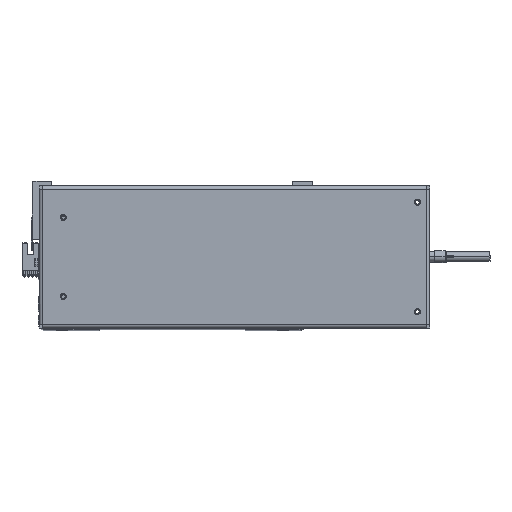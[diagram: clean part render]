
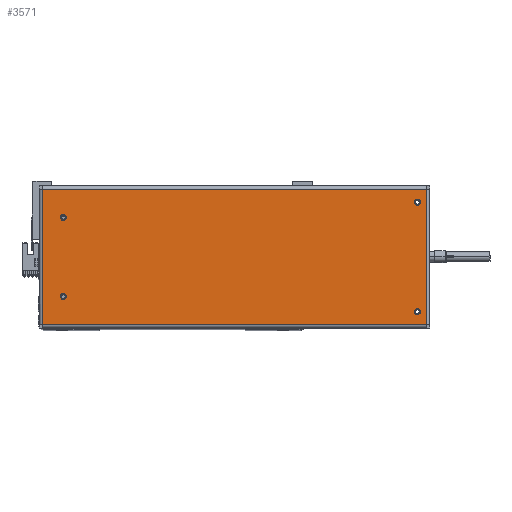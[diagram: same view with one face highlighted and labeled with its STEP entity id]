
A CAD part, top view. The second image highlights one B-rep face of the part: STEP entity #3571.
In plain terms, the highlighted planar face has unit normal (0, 0, 1).
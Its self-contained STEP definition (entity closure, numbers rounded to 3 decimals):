
#465 = CARTESIAN_POINT ( 'NONE',  ( 153., -45., 0. ) ) ;
#493 = CARTESIAN_POINT ( 'NONE',  ( -157.6, 55.6, 0. ) ) ;
#537 = CIRCLE ( 'NONE', #6693, 2.5 ) ;
#1311 = VERTEX_POINT ( 'NONE', #26631 ) ;
#1660 = CIRCLE ( 'NONE', #25196, 2.5 ) ;
#2246 = ORIENTED_EDGE ( 'NONE', *, *, #32238, .F. ) ;
#2310 = EDGE_CURVE ( 'NONE', #5489, #37301, #10254, .T. ) ;
#2316 = DIRECTION ( 'NONE',  ( 0., 0., 1. ) ) ;
#3098 = ORIENTED_EDGE ( 'NONE', *, *, #36973, .T. ) ;
#3502 = DIRECTION ( 'NONE',  ( 1., 0., 0. ) ) ;
#3571 = ADVANCED_FACE ( 'NONE', ( #18126, #30229, #35807, #31136, #25522 ), #14453, .F. ) ;
#4216 = CIRCLE ( 'NONE', #36766, 2.5 ) ;
#4456 = EDGE_CURVE ( 'NONE', #7690, #5489, #28705, .T. ) ;
#5290 = EDGE_CURVE ( 'NONE', #18278, #35561, #537, .T. ) ;
#5489 = VERTEX_POINT ( 'NONE', #25571 ) ;
#5739 = CARTESIAN_POINT ( 'NONE',  ( -157.6, 55.6, 0. ) ) ;
#5766 = DIRECTION ( 'NONE',  ( -1., 0., 0. ) ) ;
#6530 = DIRECTION ( 'NONE',  ( 1., 0., 0. ) ) ;
#6693 = AXIS2_PLACEMENT_3D ( 'NONE', #30571, #33552, #6530 ) ;
#7250 = VECTOR ( 'NONE', #24206, 1000. ) ;
#7357 = VERTEX_POINT ( 'NONE', #31587 ) ;
#7690 = VERTEX_POINT ( 'NONE', #24691 ) ;
#7695 = ORIENTED_EDGE ( 'NONE', *, *, #5290, .F. ) ;
#8499 = DIRECTION ( 'NONE',  ( 0., 0., 1. ) ) ;
#8512 = DIRECTION ( 'NONE',  ( 1., 0., 0. ) ) ;
#8838 = DIRECTION ( 'NONE',  ( 0., 0., 1. ) ) ;
#9350 = ORIENTED_EDGE ( 'NONE', *, *, #24171, .F. ) ;
#10098 = DIRECTION ( 'NONE',  ( 0., 0., 1. ) ) ;
#10109 = AXIS2_PLACEMENT_3D ( 'NONE', #18998, #36951, #22467 ) ;
#10254 = LINE ( 'NONE', #35789, #36364 ) ;
#10617 = AXIS2_PLACEMENT_3D ( 'NONE', #35410, #11472, #23554 ) ;
#11472 = DIRECTION ( 'NONE',  ( 0., 0., 1. ) ) ;
#12356 = DIRECTION ( 'NONE',  ( 0., 0., 1. ) ) ;
#12480 = AXIS2_PLACEMENT_3D ( 'NONE', #35258, #37973, #17454 ) ;
#12841 = LINE ( 'NONE', #5739, #14703 ) ;
#13036 = CARTESIAN_POINT ( 'NONE',  ( 148., -45., 0. ) ) ;
#14453 = PLANE ( 'NONE',  #12480 ) ;
#14674 = DIRECTION ( 'NONE',  ( 1., 0., 0. ) ) ;
#14703 = VECTOR ( 'NONE', #31718, 1000. ) ;
#14944 = VERTEX_POINT ( 'NONE', #465 ) ;
#15077 = CARTESIAN_POINT ( 'NONE',  ( -140.5, -32.5, 0. ) ) ;
#17153 = CARTESIAN_POINT ( 'NONE',  ( -157.7, -55.6, 0. ) ) ;
#17454 = DIRECTION ( 'NONE',  ( -1., 0., 0. ) ) ;
#18126 = FACE_BOUND ( 'NONE', #36127, .T. ) ;
#18278 = VERTEX_POINT ( 'NONE', #22065 ) ;
#18277 = DIRECTION ( 'NONE',  ( 1., 0., 0. ) ) ;
#18490 = AXIS2_PLACEMENT_3D ( 'NONE', #35479, #8499, #14674 ) ;
#18998 = CARTESIAN_POINT ( 'NONE',  ( 150.5, -45., 0. ) ) ;
#19680 = EDGE_CURVE ( 'NONE', #23145, #7690, #23433, .T. ) ;
#20235 = ORIENTED_EDGE ( 'NONE', *, *, #29013, .F. ) ;
#20508 = VERTEX_POINT ( 'NONE', #28313 ) ;
#21007 = VERTEX_POINT ( 'NONE', #30341 ) ;
#22065 = CARTESIAN_POINT ( 'NONE',  ( -138., 32.5, 0. ) ) ;
#22467 = DIRECTION ( 'NONE',  ( 1., 0., 0. ) ) ;
#22828 = AXIS2_PLACEMENT_3D ( 'NONE', #30719, #10098, #31211 ) ;
#23145 = VERTEX_POINT ( 'NONE', #32374 ) ;
#23433 = LINE ( 'NONE', #17153, #24388 ) ;
#23554 = DIRECTION ( 'NONE',  ( 1., 0., 0. ) ) ;
#24171 = EDGE_CURVE ( 'NONE', #1311, #7357, #27293, .T. ) ;
#24206 = DIRECTION ( 'NONE',  ( 0., 1., 0. ) ) ;
#24388 = VECTOR ( 'NONE', #8512, 1000. ) ;
#24691 = CARTESIAN_POINT ( 'NONE',  ( 157.6, -55.6, 0. ) ) ;
#24883 = EDGE_CURVE ( 'NONE', #14944, #25919, #27702, .T. ) ;
#24992 = EDGE_CURVE ( 'NONE', #25919, #14944, #29089, .T. ) ;
#25196 = AXIS2_PLACEMENT_3D ( 'NONE', #38078, #2316, #28849 ) ;
#25522 = FACE_OUTER_BOUND ( 'NONE', #38401, .T. ) ;
#25571 = CARTESIAN_POINT ( 'NONE',  ( 157.6, 55.6, 0. ) ) ;
#25834 = ORIENTED_EDGE ( 'NONE', *, *, #4456, .T. ) ;
#25919 = VERTEX_POINT ( 'NONE', #13036 ) ;
#26109 = ORIENTED_EDGE ( 'NONE', *, *, #29103, .F. ) ;
#26631 = CARTESIAN_POINT ( 'NONE',  ( 153., 45., 0. ) ) ;
#26923 = CARTESIAN_POINT ( 'NONE',  ( 157.6, -55.6, 0. ) ) ;
#27293 = CIRCLE ( 'NONE', #33589, 2.5 ) ;
#27702 = CIRCLE ( 'NONE', #22828, 2.5 ) ;
#27709 = EDGE_LOOP ( 'NONE', ( #29615, #38382 ) ) ;
#28313 = CARTESIAN_POINT ( 'NONE',  ( -138., -32.5, 0. ) ) ;
#28705 = LINE ( 'NONE', #26923, #7250 ) ;
#28849 = DIRECTION ( 'NONE',  ( 1., 0., 0. ) ) ;
#29013 = EDGE_CURVE ( 'NONE', #35561, #18278, #1660, .T. ) ;
#29089 = CIRCLE ( 'NONE', #10109, 2.5 ) ;
#29103 = EDGE_CURVE ( 'NONE', #7357, #1311, #34372, .T. ) ;
#29505 = ORIENTED_EDGE ( 'NONE', *, *, #19680, .T. ) ;
#29615 = ORIENTED_EDGE ( 'NONE', *, *, #24883, .F. ) ;
#29894 = CARTESIAN_POINT ( 'NONE',  ( -143., 32.5, 0. ) ) ;
#30116 = CARTESIAN_POINT ( 'NONE',  ( 150.5, 45., 0. ) ) ;
#30229 = FACE_BOUND ( 'NONE', #31576, .T. ) ;
#30341 = CARTESIAN_POINT ( 'NONE',  ( -143., -32.5, 0. ) ) ;
#30571 = CARTESIAN_POINT ( 'NONE',  ( -140.5, 32.5, 0. ) ) ;
#30719 = CARTESIAN_POINT ( 'NONE',  ( 150.5, -45., 0. ) ) ;
#31094 = EDGE_LOOP ( 'NONE', ( #9350, #26109 ) ) ;
#31136 = FACE_BOUND ( 'NONE', #31094, .T. ) ;
#31211 = DIRECTION ( 'NONE',  ( 1., 0., 0. ) ) ;
#31576 = EDGE_LOOP ( 'NONE', ( #7695, #20235 ) ) ;
#31587 = CARTESIAN_POINT ( 'NONE',  ( 148., 45., 0. ) ) ;
#31718 = DIRECTION ( 'NONE',  ( 0., -1., 0. ) ) ;
#31949 = CIRCLE ( 'NONE', #10617, 2.5 ) ;
#32238 = EDGE_CURVE ( 'NONE', #21007, #20508, #4216, .T. ) ;
#32374 = CARTESIAN_POINT ( 'NONE',  ( -157.6, -55.6, 0. ) ) ;
#33552 = DIRECTION ( 'NONE',  ( 0., 0., 1. ) ) ;
#33589 = AXIS2_PLACEMENT_3D ( 'NONE', #30116, #8838, #18277 ) ;
#34372 = CIRCLE ( 'NONE', #18490, 2.5 ) ;
#35258 = CARTESIAN_POINT ( 'NONE',  ( 157.7, 58.5, 0. ) ) ;
#35410 = CARTESIAN_POINT ( 'NONE',  ( -140.5, -32.5, 0. ) ) ;
#35479 = CARTESIAN_POINT ( 'NONE',  ( 150.5, 45., 0. ) ) ;
#35561 = VERTEX_POINT ( 'NONE', #29894 ) ;
#35789 = CARTESIAN_POINT ( 'NONE',  ( 157.7, 55.6, 0. ) ) ;
#35807 = FACE_BOUND ( 'NONE', #27709, .T. ) ;
#35826 = ORIENTED_EDGE ( 'NONE', *, *, #2310, .T. ) ;
#36127 = EDGE_LOOP ( 'NONE', ( #36596, #2246 ) ) ;
#36364 = VECTOR ( 'NONE', #5766, 1000. ) ;
#36523 = EDGE_CURVE ( 'NONE', #20508, #21007, #31949, .T. ) ;
#36596 = ORIENTED_EDGE ( 'NONE', *, *, #36523, .F. ) ;
#36766 = AXIS2_PLACEMENT_3D ( 'NONE', #15077, #12356, #3502 ) ;
#36951 = DIRECTION ( 'NONE',  ( 0., 0., 1. ) ) ;
#36973 = EDGE_CURVE ( 'NONE', #37301, #23145, #12841, .T. ) ;
#37301 = VERTEX_POINT ( 'NONE', #493 ) ;
#37973 = DIRECTION ( 'NONE',  ( 0., 0., -1. ) ) ;
#38078 = CARTESIAN_POINT ( 'NONE',  ( -140.5, 32.5, 0. ) ) ;
#38382 = ORIENTED_EDGE ( 'NONE', *, *, #24992, .F. ) ;
#38401 = EDGE_LOOP ( 'NONE', ( #3098, #29505, #25834, #35826 ) ) ;
